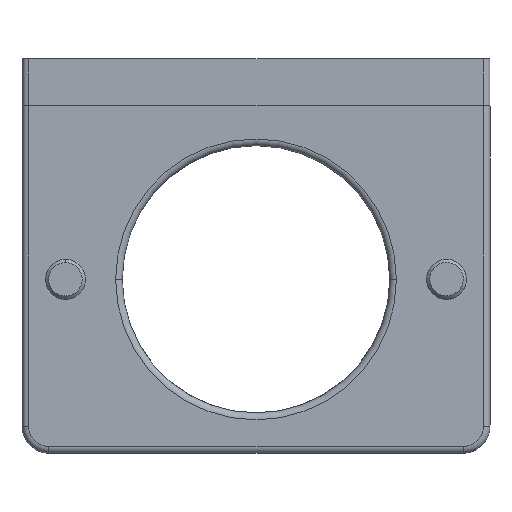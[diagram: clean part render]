
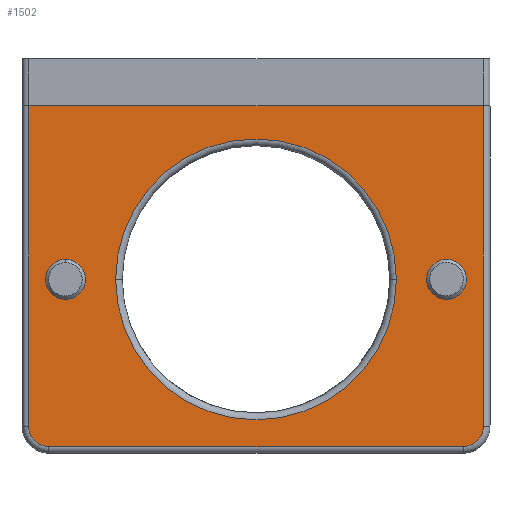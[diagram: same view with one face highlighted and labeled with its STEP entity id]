
A CAD part, front view. The second image highlights one B-rep face of the part: STEP entity #1502.
In plain terms, the highlighted planar face has unit normal (0, -1, 0).
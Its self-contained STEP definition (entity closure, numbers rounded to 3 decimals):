
#10 = EDGE_CURVE ( 'NONE', #3456, #963, #4807, .T. ) ;
#25 = VECTOR ( 'NONE', #4721, 1000. ) ;
#98 = CARTESIAN_POINT ( 'NONE',  ( 36.386, -23.378, 0. ) ) ;
#200 = DIRECTION ( 'NONE',  ( -1., 0., 0. ) ) ;
#251 = CARTESIAN_POINT ( 'NONE',  ( -32.614, -23.378, 0. ) ) ;
#360 = VERTEX_POINT ( 'NONE', #1290 ) ;
#419 = ORIENTED_EDGE ( 'NONE', *, *, #4744, .T. ) ;
#471 = CARTESIAN_POINT ( 'NONE',  ( 30.886, -23.378, -26. ) ) ;
#482 = LINE ( 'NONE', #2122, #4803 ) ;
#527 = CARTESIAN_POINT ( 'NONE',  ( -31.614, -23.378, 0. ) ) ;
#619 = ORIENTED_EDGE ( 'NONE', *, *, #5089, .T. ) ;
#686 = EDGE_CURVE ( 'NONE', #2022, #4246, #1632, .T. ) ;
#699 = CARTESIAN_POINT ( 'NONE',  ( -28.614, -23.378, -51. ) ) ;
#747 = DIRECTION ( 'NONE',  ( 1., 0., 0. ) ) ;
#792 = ORIENTED_EDGE ( 'NONE', *, *, #686, .T. ) ;
#811 = DIRECTION ( 'NONE',  ( 1., 0., 0. ) ) ;
#884 = EDGE_CURVE ( 'NONE', #4246, #2022, #2542, .T. ) ;
#885 = DIRECTION ( 'NONE',  ( 0., 1., 0. ) ) ;
#913 = LINE ( 'NONE', #2369, #1691 ) ;
#936 = DIRECTION ( 'NONE',  ( 0., 1., 0. ) ) ;
#963 = VERTEX_POINT ( 'NONE', #3793 ) ;
#970 = DIRECTION ( 'NONE',  ( -1., 0., 0. ) ) ;
#1032 = FACE_OUTER_BOUND ( 'NONE', #4149, .T. ) ;
#1065 = AXIS2_PLACEMENT_3D ( 'NONE', #4762, #885, #1294 ) ;
#1078 = AXIS2_PLACEMENT_3D ( 'NONE', #471, #3939, #970 ) ;
#1167 = LINE ( 'NONE', #98, #4876 ) ;
#1185 = FACE_BOUND ( 'NONE', #2746, .T. ) ;
#1217 = VERTEX_POINT ( 'NONE', #527 ) ;
#1290 = CARTESIAN_POINT ( 'NONE',  ( 33.386, -23.378, -51. ) ) ;
#1294 = DIRECTION ( 'NONE',  ( 1., 0., 0. ) ) ;
#1426 = EDGE_CURVE ( 'NONE', #2271, #3711, #3503, .T. ) ;
#1440 = EDGE_LOOP ( 'NONE', ( #1981, #4402 ) ) ;
#1502 = ADVANCED_FACE ( 'NONE', ( #3816, #1185, #1032, #4893 ), #2237, .F. ) ;
#1614 = CARTESIAN_POINT ( 'NONE',  ( -26.114, -23.378, -26. ) ) ;
#1632 = CIRCLE ( 'NONE', #1078, 3. ) ;
#1691 = VECTOR ( 'NONE', #3856, 1000. ) ;
#1738 = ORIENTED_EDGE ( 'NONE', *, *, #884, .T. ) ;
#1771 = DIRECTION ( 'NONE',  ( 1., 0., 0. ) ) ;
#1849 = AXIS2_PLACEMENT_3D ( 'NONE', #5851, #3335, #811 ) ;
#1861 = CIRCLE ( 'NONE', #3796, 21. ) ;
#1981 = ORIENTED_EDGE ( 'NONE', *, *, #1426, .T. ) ;
#1985 = VERTEX_POINT ( 'NONE', #2150 ) ;
#2010 = EDGE_CURVE ( 'NONE', #1217, #5116, #482, .T. ) ;
#2022 = VERTEX_POINT ( 'NONE', #3621 ) ;
#2063 = AXIS2_PLACEMENT_3D ( 'NONE', #2400, #4792, #3316 ) ;
#2074 = CARTESIAN_POINT ( 'NONE',  ( -29.114, -23.378, -26. ) ) ;
#2122 = CARTESIAN_POINT ( 'NONE',  ( -32.614, -23.378, 0. ) ) ;
#2149 = DIRECTION ( 'NONE',  ( 1., 0., 0. ) ) ;
#2150 = CARTESIAN_POINT ( 'NONE',  ( 36.386, -23.378, -48. ) ) ;
#2194 = DIRECTION ( 'NONE',  ( 1., 0., 0. ) ) ;
#2237 = PLANE ( 'NONE',  #5335 ) ;
#2271 = VERTEX_POINT ( 'NONE', #2074 ) ;
#2303 = CIRCLE ( 'NONE', #4712, 3. ) ;
#2369 = CARTESIAN_POINT ( 'NONE',  ( -32.614, -23.378, -51. ) ) ;
#2400 = CARTESIAN_POINT ( 'NONE',  ( -28.614, -23.378, -48. ) ) ;
#2490 = EDGE_CURVE ( 'NONE', #963, #3456, #1861, .T. ) ;
#2509 = ORIENTED_EDGE ( 'NONE', *, *, #5767, .T. ) ;
#2542 = CIRCLE ( 'NONE', #3109, 3. ) ;
#2632 = DIRECTION ( 'NONE',  ( 0., 1., 0. ) ) ;
#2742 = EDGE_CURVE ( 'NONE', #1985, #5116, #1167, .T. ) ;
#2746 = EDGE_LOOP ( 'NONE', ( #1738, #792 ) ) ;
#2892 = CARTESIAN_POINT ( 'NONE',  ( 2.386, -23.378, -26. ) ) ;
#2902 = VERTEX_POINT ( 'NONE', #699 ) ;
#3109 = AXIS2_PLACEMENT_3D ( 'NONE', #3168, #4665, #200 ) ;
#3136 = LINE ( 'NONE', #3680, #25 ) ;
#3168 = CARTESIAN_POINT ( 'NONE',  ( 30.886, -23.378, -26. ) ) ;
#3201 = DIRECTION ( 'NONE',  ( 0., 1., 0. ) ) ;
#3316 = DIRECTION ( 'NONE',  ( 1., 0., 0. ) ) ;
#3335 = DIRECTION ( 'NONE',  ( 0., 1., 0. ) ) ;
#3350 = AXIS2_PLACEMENT_3D ( 'NONE', #1614, #2632, #2194 ) ;
#3456 = VERTEX_POINT ( 'NONE', #3666 ) ;
#3503 = CIRCLE ( 'NONE', #3350, 3. ) ;
#3564 = DIRECTION ( 'NONE',  ( 0., 0., 1. ) ) ;
#3579 = DIRECTION ( 'NONE',  ( 0., -1., 0. ) ) ;
#3609 = CARTESIAN_POINT ( 'NONE',  ( 36.386, -23.378, 0. ) ) ;
#3621 = CARTESIAN_POINT ( 'NONE',  ( 33.886, -23.378, -26. ) ) ;
#3666 = CARTESIAN_POINT ( 'NONE',  ( 23.386, -23.378, -26. ) ) ;
#3680 = CARTESIAN_POINT ( 'NONE',  ( -31.614, -23.378, 0. ) ) ;
#3711 = VERTEX_POINT ( 'NONE', #5939 ) ;
#3765 = VERTEX_POINT ( 'NONE', #6064 ) ;
#3777 = CIRCLE ( 'NONE', #2063, 3. ) ;
#3793 = CARTESIAN_POINT ( 'NONE',  ( -18.614, -23.378, -26. ) ) ;
#3796 = AXIS2_PLACEMENT_3D ( 'NONE', #2892, #936, #6332 ) ;
#3816 = FACE_BOUND ( 'NONE', #4915, .T. ) ;
#3821 = ORIENTED_EDGE ( 'NONE', *, *, #2742, .T. ) ;
#3856 = DIRECTION ( 'NONE',  ( 1., 0., 0. ) ) ;
#3939 = DIRECTION ( 'NONE',  ( 0., 1., 0. ) ) ;
#4149 = EDGE_LOOP ( 'NONE', ( #619, #3821, #5624, #419, #6165, #2509 ) ) ;
#4246 = VERTEX_POINT ( 'NONE', #6035 ) ;
#4402 = ORIENTED_EDGE ( 'NONE', *, *, #4788, .T. ) ;
#4461 = ORIENTED_EDGE ( 'NONE', *, *, #10, .T. ) ;
#4665 = DIRECTION ( 'NONE',  ( 0., 1., 0. ) ) ;
#4712 = AXIS2_PLACEMENT_3D ( 'NONE', #5101, #3579, #2149 ) ;
#4721 = DIRECTION ( 'NONE',  ( 0., 0., -1. ) ) ;
#4744 = EDGE_CURVE ( 'NONE', #1217, #3765, #3136, .T. ) ;
#4762 = CARTESIAN_POINT ( 'NONE',  ( -26.114, -23.378, -26. ) ) ;
#4788 = EDGE_CURVE ( 'NONE', #3711, #2271, #4902, .T. ) ;
#4792 = DIRECTION ( 'NONE',  ( 0., -1., 0. ) ) ;
#4803 = VECTOR ( 'NONE', #1771, 1000. ) ;
#4807 = CIRCLE ( 'NONE', #1849, 21. ) ;
#4876 = VECTOR ( 'NONE', #3564, 1000. ) ;
#4893 = FACE_BOUND ( 'NONE', #1440, .T. ) ;
#4902 = CIRCLE ( 'NONE', #1065, 3. ) ;
#4915 = EDGE_LOOP ( 'NONE', ( #4461, #4979 ) ) ;
#4979 = ORIENTED_EDGE ( 'NONE', *, *, #2490, .T. ) ;
#5089 = EDGE_CURVE ( 'NONE', #360, #1985, #2303, .T. ) ;
#5101 = CARTESIAN_POINT ( 'NONE',  ( 33.386, -23.378, -48. ) ) ;
#5116 = VERTEX_POINT ( 'NONE', #3609 ) ;
#5335 = AXIS2_PLACEMENT_3D ( 'NONE', #251, #3201, #747 ) ;
#5624 = ORIENTED_EDGE ( 'NONE', *, *, #2010, .F. ) ;
#5767 = EDGE_CURVE ( 'NONE', #2902, #360, #913, .T. ) ;
#5851 = CARTESIAN_POINT ( 'NONE',  ( 2.386, -23.378, -26. ) ) ;
#5939 = CARTESIAN_POINT ( 'NONE',  ( -23.114, -23.378, -26. ) ) ;
#6035 = CARTESIAN_POINT ( 'NONE',  ( 27.886, -23.378, -26. ) ) ;
#6064 = CARTESIAN_POINT ( 'NONE',  ( -31.614, -23.378, -48. ) ) ;
#6165 = ORIENTED_EDGE ( 'NONE', *, *, #6338, .T. ) ;
#6332 = DIRECTION ( 'NONE',  ( 1., 0., 0. ) ) ;
#6338 = EDGE_CURVE ( 'NONE', #3765, #2902, #3777, .T. ) ;
